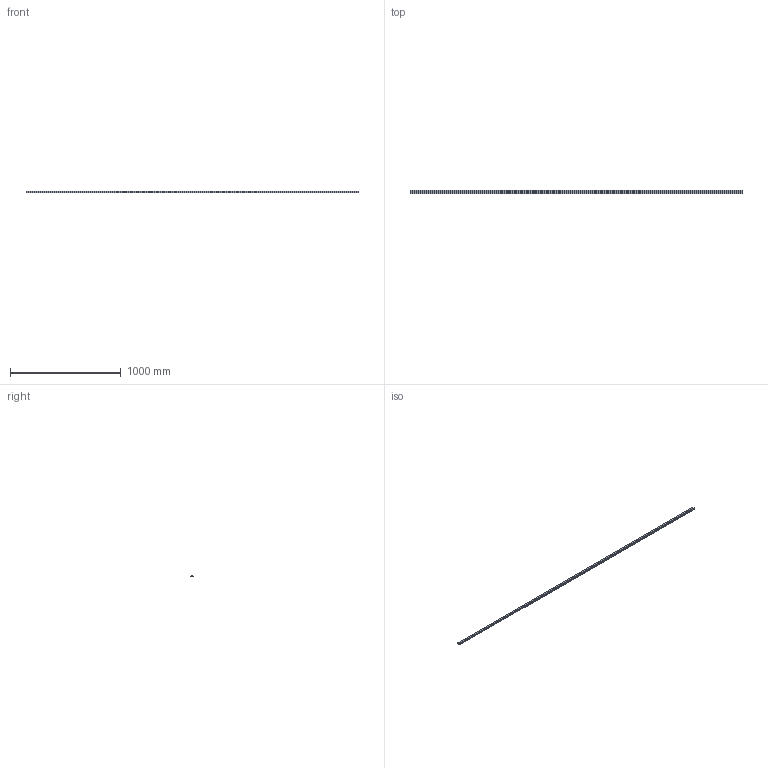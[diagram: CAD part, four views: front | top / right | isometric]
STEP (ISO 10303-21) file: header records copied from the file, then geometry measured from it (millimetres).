
FILE_DESCRIPTION (( 'STEP AP214' ), '1' );
FILE_NAME ('FABER - FL5S H30.step', '2017-04-06T07:46:14', ( '' ), ( '' ), 'SwSTEP 2.0', 'SolidWorks 2016', '' );
FILE_SCHEMA (( 'AUTOMOTIVE_DESIGN' ));
Length unit declared in the file: millimetre
Products named in the file (1): FABER - FL5S H30
Bounding box: 3000 x 30 x 12 mm (x, y, z)
Volume: 633000 mm3; surface area: 288422 mm2
Topology: 1 solids, 1 shells, 18 faces, 48 edges, 32 vertices
Faces by surface type: plane 18
Entity records: 586 total; most frequent: CARTESIAN_POINT 99, ORIENTED_EDGE 96, DIRECTION 86, VECTOR 48, EDGE_CURVE 48, LINE 48, VERTEX_POINT 32, AXIS2_PLACEMENT_3D 19
